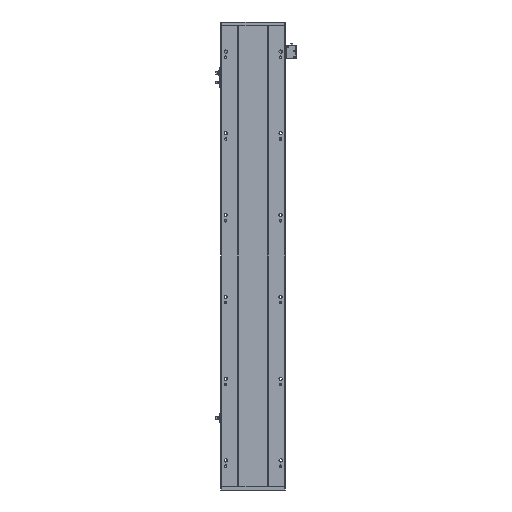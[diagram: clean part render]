
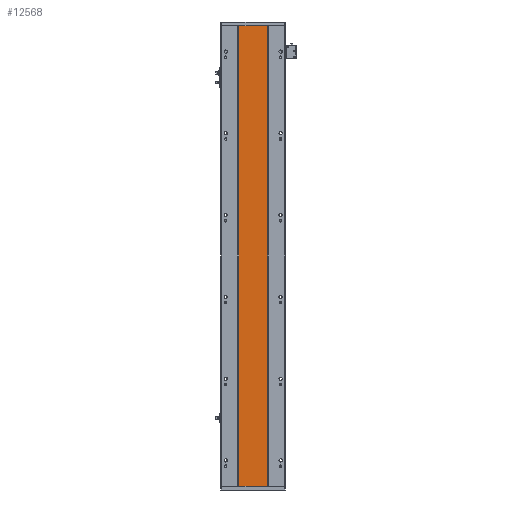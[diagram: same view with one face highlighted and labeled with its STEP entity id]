
A CAD part, front view. The second image highlights one B-rep face of the part: STEP entity #12568.
In plain terms, the highlighted planar face has unit normal (0, -1, 0).
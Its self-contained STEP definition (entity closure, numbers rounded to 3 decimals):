
#512 = VECTOR ( 'NONE', #19812, 1000. ) ;
#530 = DIRECTION ( 'NONE',  ( 0., 0., -1. ) ) ;
#867 = CARTESIAN_POINT ( 'NONE',  ( 129.288, 16.9, 1216. ) ) ;
#1571 = CARTESIAN_POINT ( 'NONE',  ( 129.288, 16.9, 1216. ) ) ;
#3400 = ORIENTED_EDGE ( 'NONE', *, *, #4344, .T. ) ;
#4344 = EDGE_CURVE ( 'NONE', #16545, #26500, #5226, .T. ) ;
#4863 = LINE ( 'NONE', #32356, #512 ) ;
#5226 = LINE ( 'NONE', #867, #16697 ) ;
#6947 = AXIS2_PLACEMENT_3D ( 'NONE', #14897, #19970, #9953 ) ;
#6957 = ORIENTED_EDGE ( 'NONE', *, *, #19121, .T. ) ;
#7515 = PLANE ( 'NONE',  #6947 ) ;
#9953 = DIRECTION ( 'NONE',  ( -1., 0., 0. ) ) ;
#11171 = ORIENTED_EDGE ( 'NONE', *, *, #13349, .F. ) ;
#11961 = EDGE_CURVE ( 'NONE', #16545, #32639, #14821, .T. ) ;
#12218 = CARTESIAN_POINT ( 'NONE',  ( 129.288, 16.9, 0. ) ) ;
#12568 = ADVANCED_FACE ( 'NONE', ( #12827 ), #7515, .F. ) ;
#12827 = FACE_OUTER_BOUND ( 'NONE', #21021, .T. ) ;
#13349 = EDGE_CURVE ( 'NONE', #32639, #32372, #4863, .T. ) ;
#14045 = VECTOR ( 'NONE', #22224, 1000. ) ;
#14162 = VECTOR ( 'NONE', #19089, 1000. ) ;
#14821 = LINE ( 'NONE', #1571, #14045 ) ;
#14897 = CARTESIAN_POINT ( 'NONE',  ( 205.288, 16.9, 1216. ) ) ;
#16068 = CARTESIAN_POINT ( 'NONE',  ( 129.288, 16.9, 1216. ) ) ;
#16545 = VERTEX_POINT ( 'NONE', #16068 ) ;
#16560 = CARTESIAN_POINT ( 'NONE',  ( 205.288, 16.9, 0. ) ) ;
#16697 = VECTOR ( 'NONE', #530, 1000. ) ;
#19089 = DIRECTION ( 'NONE',  ( 1., 0., 0. ) ) ;
#19121 = EDGE_CURVE ( 'NONE', #26500, #32372, #20884, .T. ) ;
#19812 = DIRECTION ( 'NONE',  ( 0., 0., -1. ) ) ;
#19970 = DIRECTION ( 'NONE',  ( 0., 1., 0. ) ) ;
#20884 = LINE ( 'NONE', #16560, #14162 ) ;
#21021 = EDGE_LOOP ( 'NONE', ( #6957, #11171, #30429, #3400 ) ) ;
#22224 = DIRECTION ( 'NONE',  ( 1., 0., 0. ) ) ;
#26500 = VERTEX_POINT ( 'NONE', #12218 ) ;
#28397 = CARTESIAN_POINT ( 'NONE',  ( 205.288, 16.9, 1216. ) ) ;
#30429 = ORIENTED_EDGE ( 'NONE', *, *, #11961, .F. ) ;
#32276 = CARTESIAN_POINT ( 'NONE',  ( 205.288, 16.9, 0. ) ) ;
#32356 = CARTESIAN_POINT ( 'NONE',  ( 205.288, 16.9, 1216. ) ) ;
#32372 = VERTEX_POINT ( 'NONE', #32276 ) ;
#32639 = VERTEX_POINT ( 'NONE', #28397 ) ;
